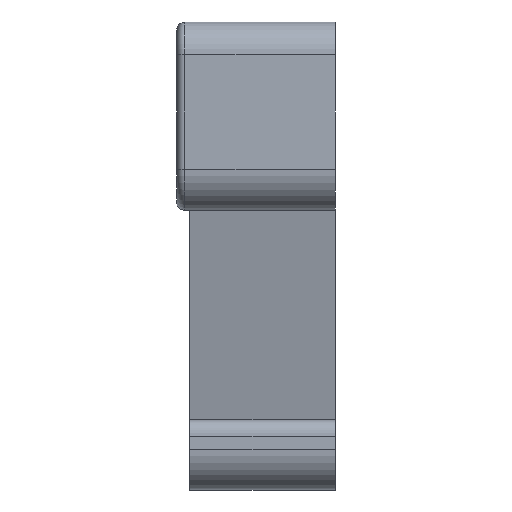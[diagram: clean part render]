
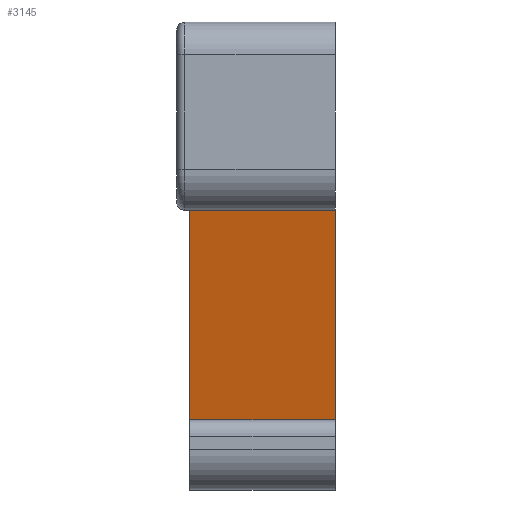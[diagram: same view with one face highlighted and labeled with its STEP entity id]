
A CAD part, front view. The second image highlights one B-rep face of the part: STEP entity #3145.
In plain terms, the highlighted planar face has unit normal (0, -0.979, -0.206).
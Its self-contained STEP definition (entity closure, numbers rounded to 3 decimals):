
#509 = ORIENTED_EDGE ( 'NONE', *, *, #3264, .T. ) ;
#511 = ORIENTED_EDGE ( 'NONE', *, *, #3369, .T. ) ;
#512 = ORIENTED_EDGE ( 'NONE', *, *, #2996, .T. ) ;
#513 = ORIENTED_EDGE ( 'NONE', *, *, #2983, .F. ) ;
#723 = CARTESIAN_POINT ( 'NONE',  ( 4.85, -28.3, -9.3 ) ) ;
#822 = CARTESIAN_POINT ( 'NONE',  ( 4.85, -31., 3.5 ) ) ;
#828 = CARTESIAN_POINT ( 'NONE',  ( -4.05, -31., 3.5 ) ) ;
#832 = CARTESIAN_POINT ( 'NONE',  ( -4.05, -28.3, -9.3 ) ) ;
#993 = LINE ( 'NONE', #994, #4001 ) ;
#994 = CARTESIAN_POINT ( 'NONE',  ( -4.85, -31., 3.5 ) ) ;
#995 = DIRECTION ( 'NONE',  ( 1., 0., 0. ) ) ;
#1046 = LINE ( 'NONE', #1047, #4012 ) ;
#1047 = CARTESIAN_POINT ( 'NONE',  ( -4.05, -28.3, -9.3 ) ) ;
#1048 = DIRECTION ( 'NONE',  ( 0., 0.206, -0.978 ) ) ;
#1227 = EDGE_LOOP ( 'NONE', ( #513, #512, #511, #509 ) ) ;
#1442 = VERTEX_POINT ( 'NONE', #723 ) ;
#1541 = VERTEX_POINT ( 'NONE', #822 ) ;
#1547 = VERTEX_POINT ( 'NONE', #828 ) ;
#1551 = VERTEX_POINT ( 'NONE', #832 ) ;
#2118 = PLANE ( 'NONE',  #3662 ) ;
#2119 = CARTESIAN_POINT ( 'NONE',  ( -4.85, -28.3, -9.3 ) ) ;
#2120 = DIRECTION ( 'NONE',  ( 0., 0.978, 0.206 ) ) ;
#2121 = DIRECTION ( 'NONE',  ( 0., -0.206, 0.978 ) ) ;
#2502 = LINE ( 'NONE', #2503, #3770 ) ;
#2503 = CARTESIAN_POINT ( 'NONE',  ( 4.85, -28.3, -9.3 ) ) ;
#2504 = DIRECTION ( 'NONE',  ( 0., -0.206, 0.978 ) ) ;
#2817 = LINE ( 'NONE', #2818, #3590 ) ;
#2818 = CARTESIAN_POINT ( 'NONE',  ( -4.85, -28.3, -9.3 ) ) ;
#2819 = DIRECTION ( 'NONE',  ( 1., 0., 0. ) ) ;
#2983 = EDGE_CURVE ( 'NONE', #1547, #1541, #993, .T. ) ;
#2996 = EDGE_CURVE ( 'NONE', #1547, #1551, #1046, .T. ) ;
#3145 = ADVANCED_FACE ( 'NONE', ( #3704 ), #2118, .F. ) ;
#3264 = EDGE_CURVE ( 'NONE', #1442, #1541, #2502, .T. ) ;
#3369 = EDGE_CURVE ( 'NONE', #1551, #1442, #2817, .T. ) ;
#3590 = VECTOR ( 'NONE', #2819, 1000. ) ;
#3662 = AXIS2_PLACEMENT_3D ( 'NONE', #2119, #2120, #2121 ) ;
#3704 = FACE_OUTER_BOUND ( 'NONE', #1227, .T. ) ;
#3770 = VECTOR ( 'NONE', #2504, 1000. ) ;
#4001 = VECTOR ( 'NONE', #995, 1000. ) ;
#4012 = VECTOR ( 'NONE', #1048, 1000. ) ;
